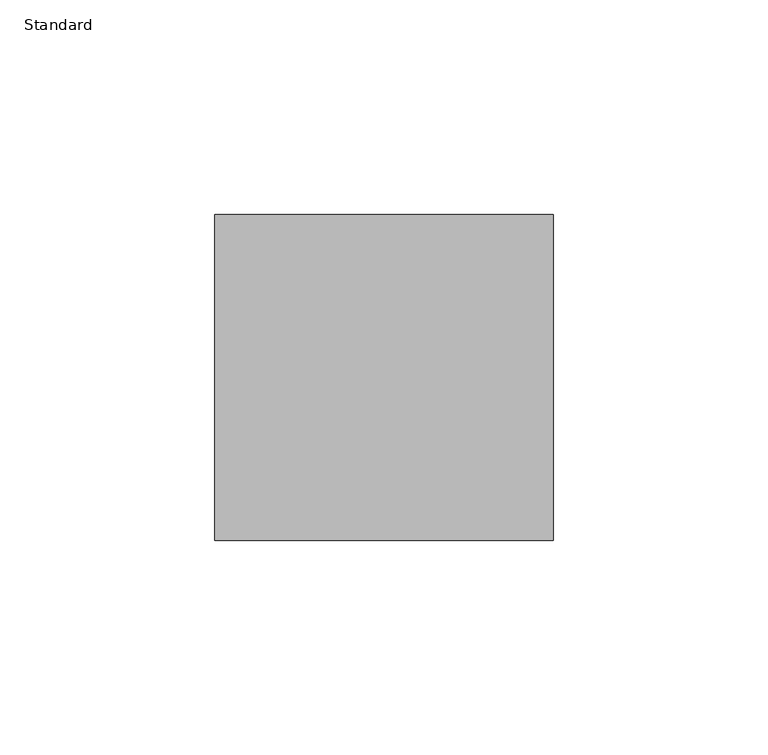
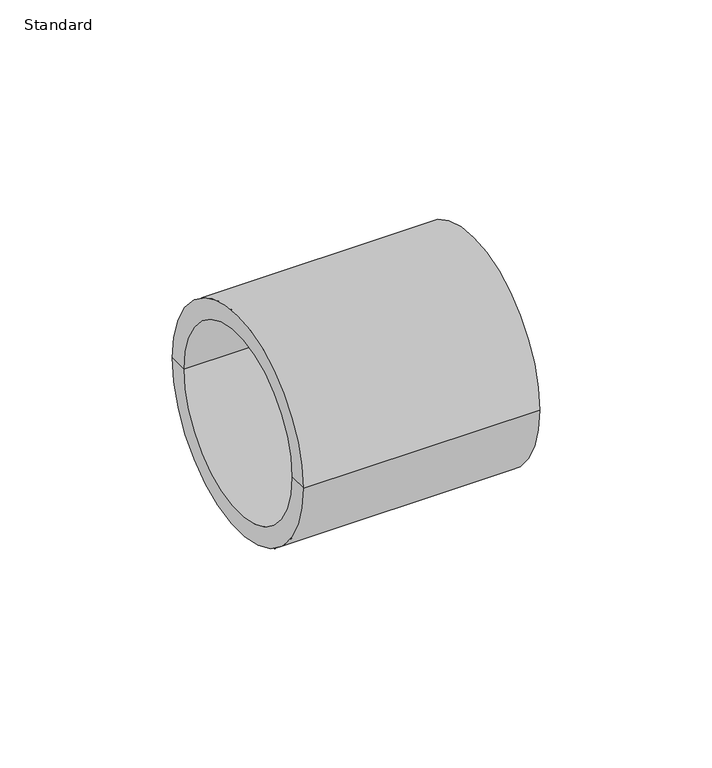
"""IFC4 building model written with IfcOpenShell, lengths in millimetres: pipe fitting geometry, Durapipe_PipeFitting_PVC_Socket : Standard."""

from ifc_helpers import new_model, si_unit, frame, origin, place, context, project, spatial, polyline, circle_curve, source, transform, mapped, element, save
from ifc_brep_helpers import plane_surface, cylinder_surface, revolved_surface, advanced_brep


def standard_d882ee41(model_context):
    return source(origin(), model_context, "Body", "AdvancedBrep", [
        advanced_brep(
        [(-39.5, -38.0, 0.0), (-39.5, 38.0, 0.0), (39.5, 38.0, 0.0), (39.5, -38.0, 0.0), (-39.5, -31.5, 0.0), (-39.5, 31.5, 0.0), (1.5, -28.5, 0.0), (1.5, 28.5, 0.0), (-1.5, 28.5, 0.0), (-1.5, -28.5, 0.0), (39.5, 31.5, 0.0), (39.5, -31.5, 0.0), (-1.5, -31.5, 0.0), (-1.5, 31.5, 0.0), (1.5, -31.5, 0.0), (1.5, 31.5, 0.0)],
        [
            (0, 1, circle_curve(frame((-39.5, 0.0, 0.0), z_axis=(1.0, 0.0, 0.0), x_axis=(0.0, 1.0, 0.0)), 38.0)),
            (1, 2),
            (2, 3, circle_curve(frame((39.5, 0.0, 0.0), z_axis=(-1.0, 0.0, 0.0), x_axis=(0.0, 1.0, 0.0)), 38.0)),
            (3, 0),
            (1, 0, circle_curve(frame((-39.5, 0.0, 0.0), z_axis=(1.0, 0.0, 0.0), x_axis=(0.0, 1.0, 0.0)), 38.0)),
            (3, 2, circle_curve(frame((39.5, 0.0, 0.0), z_axis=(-1.0, 0.0, 0.0), x_axis=(0.0, 1.0, 0.0)), 38.0)),
            (4, 5, circle_curve(frame((-39.5, 0.0, 0.0), z_axis=(1.0, 0.0, 0.0), x_axis=(0.0, 1.0, 0.0)), 31.5)),
            (5, 1),
            (0, 4),
            (5, 4, circle_curve(frame((-39.5, 0.0, 0.0), z_axis=(1.0, 0.0, 0.0), x_axis=(0.0, 1.0, 0.0)), 31.5)),
            (6, 7, circle_curve(frame((1.5, 0.0, 0.0), z_axis=(1.0, 0.0, 0.0), x_axis=(0.0, 1.0, 0.0)), 28.5)),
            (7, 8),
            (8, 9, circle_curve(frame((-1.5, 0.0, 0.0), z_axis=(-1.0, 0.0, 0.0), x_axis=(0.0, 1.0, 0.0)), 28.5)),
            (9, 6),
            (7, 6, circle_curve(frame((1.5, 0.0, 0.0), z_axis=(1.0, 0.0, 0.0), x_axis=(0.0, 1.0, 0.0)), 28.5)),
            (9, 8, circle_curve(frame((-1.5, 0.0, 0.0), z_axis=(-1.0, 0.0, 0.0), x_axis=(0.0, 1.0, 0.0)), 28.5)),
            (2, 10),
            (10, 11, circle_curve(frame((39.5, 0.0, 0.0), z_axis=(-1.0, 0.0, 0.0), x_axis=(0.0, 1.0, 0.0)), 31.5)),
            (11, 3),
            (11, 10, circle_curve(frame((39.5, 0.0, 0.0), z_axis=(-1.0, 0.0, 0.0), x_axis=(0.0, 1.0, 0.0)), 31.5)),
            (12, 13, circle_curve(frame((-1.5, 0.0, 0.0), z_axis=(1.0, 0.0, 0.0), x_axis=(0.0, 1.0, 0.0)), 31.5)),
            (13, 5),
            (4, 12),
            (13, 12, circle_curve(frame((-1.5, 0.0, 0.0), z_axis=(1.0, 0.0, 0.0), x_axis=(0.0, 1.0, 0.0)), 31.5)),
            (8, 13),
            (12, 9),
            (14, 15, circle_curve(frame((1.5, 0.0, 0.0), z_axis=(1.0, 0.0, 0.0), x_axis=(0.0, 1.0, 0.0)), 31.5)),
            (15, 7),
            (6, 14),
            (15, 14, circle_curve(frame((1.5, 0.0, 0.0), z_axis=(1.0, 0.0, 0.0), x_axis=(0.0, 1.0, 0.0)), 31.5)),
            (10, 15),
            (14, 11),
        ],
        [
            cylinder_surface(frame((-39.5, 0.0, 0.0), z_axis=(-1.0, 0.0, 0.0), x_axis=(0.0, 1.0, 0.0)), 38.0),
            plane_surface(frame((-39.5, 0.0, 0.0), z_axis=(-1.0, 0.0, 0.0), x_axis=(0.0, 1.0, 0.0))),
            revolved_surface(polyline([(-1.5, 28.5, 0.0), (1.5, 28.5, 0.0)]), (-39.5, 0.0, 0.0), (-1.0, 0.0, 0.0)),
            plane_surface(frame((39.5, 0.0, 0.0), z_axis=(1.0, 0.0, 0.0), x_axis=(0.0, 1.0, 0.0))),
            revolved_surface(polyline([(-39.5, 31.5, 0.0), (-1.5, 31.5, 0.0)]), (-39.5, 0.0, 0.0), (-1.0, 0.0, 0.0)),
            plane_surface(frame((-1.5, 0.0, 0.0), z_axis=(-1.0, 0.0, 0.0), x_axis=(0.0, 1.0, 0.0))),
            plane_surface(frame((1.5, 0.0, 0.0), z_axis=(1.0, 0.0, 0.0), x_axis=(0.0, 1.0, 0.0))),
            revolved_surface(polyline([(1.5, 31.5, 0.0), (39.5, 31.5, 0.0)]), (-39.5, 0.0, 0.0), (-1.0, 0.0, 0.0)),
        ],
        [
            (0, [[1, 2, 3, 4]]),
            (0, [[5, -4, 6, -2]]),
            (1, [[7, 8, -1, 9]]),
            (1, [[10, -9, -5, -8]]),
            (2, [[11, 12, 13, 14]]),
            (2, [[15, -14, 16, -12]]),
            (3, [[-3, 17, 18, 19]]),
            (3, [[-6, -19, 20, -17]]),
            (4, [[21, 22, -7, 23]]),
            (4, [[24, -23, -10, -22]]),
            (5, [[-13, 25, -21, 26]]),
            (5, [[-16, -26, -24, -25]]),
            (6, [[27, 28, -11, 29]]),
            (6, [[30, -29, -15, -28]]),
            (7, [[-18, 31, -27, 32]]),
            (7, [[-20, -32, -30, -31]]),
        ],
    ),
    ])


if __name__ == "__main__":
    model = new_model("IFC4")
    model_context = context("Model", 3, world=origin())
    ifc_project = project(units=[si_unit("LENGTHUNIT", "METRE", prefix="MILLI")], contexts=[model_context])
    site = spatial("IfcSite", under=ifc_project)
    building = spatial("IfcBuilding", under=site)
    placement = place(None, origin())
    standard_shape = standard_d882ee41(model_context)
    element("IfcPipeFitting", 1, ObjectType="Durapipe_PipeFitting_PVC_Socket : Standard", at=placement, inside=building, context=model_context, shape_type="MappedRepresentation", body=[
        mapped(standard_shape, transform((0.0, 0.0, 0.0), x_axis=(1.0, 0.0, 0.0), y_axis=(0.0, 1.0, 0.0), z_axis=(0.0, 0.0, 1.0))),
    ])
    save(model, "model.ifc")
